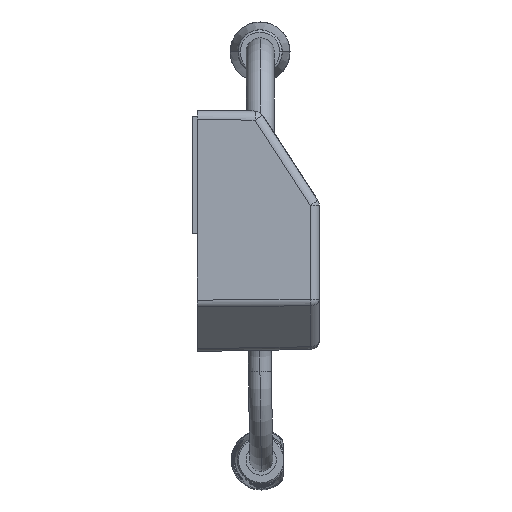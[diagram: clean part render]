
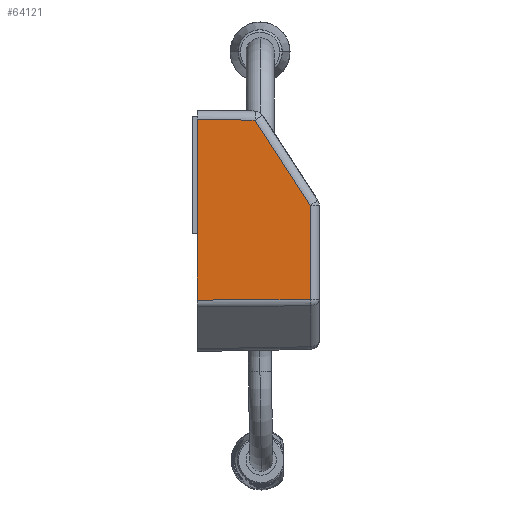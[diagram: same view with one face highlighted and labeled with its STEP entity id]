
A CAD part, left-side view. The second image highlights one B-rep face of the part: STEP entity #64121.
In plain terms, the highlighted planar face has unit normal (-1, -0.018, 0).
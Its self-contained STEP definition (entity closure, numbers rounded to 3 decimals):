
#564 = VERTEX_POINT ( 'NONE', #43029 ) ;
#1939 = CARTESIAN_POINT ( 'NONE',  ( -38.744, 1.099, 46.737 ) ) ;
#2875 = LINE ( 'NONE', #58114, #31535 ) ;
#3669 = LINE ( 'NONE', #28273, #23144 ) ;
#4474 = DIRECTION ( 'NONE',  ( -0.01, 0.545, 0.839 ) ) ;
#4763 = VECTOR ( 'NONE', #71822, 1000. ) ;
#5121 = DIRECTION ( 'NONE',  ( 0.017, -1., 0. ) ) ;
#9510 = LINE ( 'NONE', #58323, #14408 ) ;
#11119 = PLANE ( 'NONE',  #75091 ) ;
#12577 = EDGE_CURVE ( 'NONE', #74533, #18473, #2875, .T. ) ;
#14014 = EDGE_CURVE ( 'NONE', #71100, #45775, #9510, .T. ) ;
#14154 = DIRECTION ( 'NONE',  ( -0.017, 1., 0.017 ) ) ;
#14408 = VECTOR ( 'NONE', #57534, 1000. ) ;
#17990 = FACE_OUTER_BOUND ( 'NONE', #76411, .T. ) ;
#18473 = VERTEX_POINT ( 'NONE', #60181 ) ;
#21049 = ORIENTED_EDGE ( 'NONE', *, *, #78109, .F. ) ;
#21719 = ORIENTED_EDGE ( 'NONE', *, *, #43587, .T. ) ;
#23144 = VECTOR ( 'NONE', #4474, 1000. ) ;
#24701 = LINE ( 'NONE', #79122, #64396 ) ;
#28273 = CARTESIAN_POINT ( 'NONE',  ( -38.685, -2.241, 41.595 ) ) ;
#29446 = CARTESIAN_POINT ( 'NONE',  ( -38.963, 13.639, 48.493 ) ) ;
#31535 = VECTOR ( 'NONE', #14154, 1000. ) ;
#37043 = ORIENTED_EDGE ( 'NONE', *, *, #12577, .T. ) ;
#43010 = DIRECTION ( 'NONE',  ( -1., -0.017, 0. ) ) ;
#43029 = CARTESIAN_POINT ( 'NONE',  ( -38.963, 13.639, 7.677 ) ) ;
#43587 = EDGE_CURVE ( 'NONE', #45775, #74533, #3669, .T. ) ;
#43681 = DIRECTION ( 'NONE',  ( 0.017, -1., 0.007 ) ) ;
#45775 = VERTEX_POINT ( 'NONE', #53216 ) ;
#53216 = CARTESIAN_POINT ( 'NONE',  ( -38.534, -10.896, 28.268 ) ) ;
#54067 = EDGE_CURVE ( 'NONE', #564, #71100, #24701, .T. ) ;
#54451 = LINE ( 'NONE', #29446, #4763 ) ;
#57534 = DIRECTION ( 'NONE',  ( 0., 0., 1. ) ) ;
#58114 = CARTESIAN_POINT ( 'NONE',  ( -38.501, -12.826, 46.494 ) ) ;
#58323 = CARTESIAN_POINT ( 'NONE',  ( -38.534, -10.896, 48.493 ) ) ;
#60181 = CARTESIAN_POINT ( 'NONE',  ( -38.963, 13.639, 46.956 ) ) ;
#64121 = ADVANCED_FACE ( 'NONE', ( #17990 ), #11119, .T. ) ;
#64396 = VECTOR ( 'NONE', #43681, 1000. ) ;
#66721 = ORIENTED_EDGE ( 'NONE', *, *, #14014, .T. ) ;
#66815 = CARTESIAN_POINT ( 'NONE',  ( -38.5, -12.861, 48.493 ) ) ;
#69330 = CARTESIAN_POINT ( 'NONE',  ( -38.534, -10.896, 7.854 ) ) ;
#71100 = VERTEX_POINT ( 'NONE', #69330 ) ;
#71822 = DIRECTION ( 'NONE',  ( 0., 0., 1. ) ) ;
#73030 = ORIENTED_EDGE ( 'NONE', *, *, #54067, .T. ) ;
#74533 = VERTEX_POINT ( 'NONE', #1939 ) ;
#75091 = AXIS2_PLACEMENT_3D ( 'NONE', #66815, #43010, #5121 ) ;
#76411 = EDGE_LOOP ( 'NONE', ( #21719, #37043, #21049, #73030, #66721 ) ) ;
#78109 = EDGE_CURVE ( 'NONE', #564, #18473, #54451, .T. ) ;
#79122 = CARTESIAN_POINT ( 'NONE',  ( -38.495, -13.154, 7.87 ) ) ;
